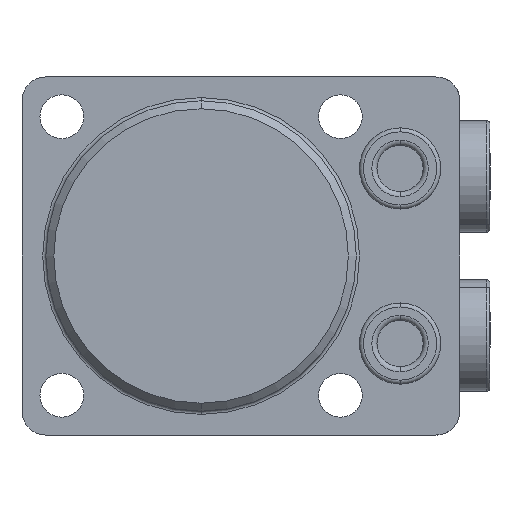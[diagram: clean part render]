
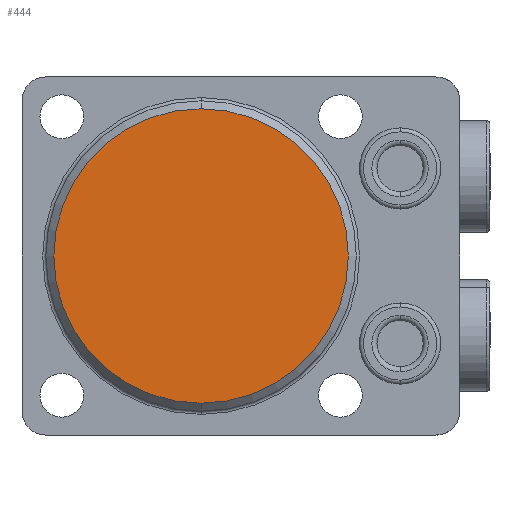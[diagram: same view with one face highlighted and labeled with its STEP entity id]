
A CAD part, front view. The second image highlights one B-rep face of the part: STEP entity #444.
In plain terms, the highlighted planar face has unit normal (0, -1, 0) as drawn and (0, 1, 0) by its records, which use the part's own axes.
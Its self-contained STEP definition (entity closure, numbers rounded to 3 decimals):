
#203=PLANE('',#3153);
#444=ADVANCED_FACE('',(#655),#203,.T.);
#655=FACE_OUTER_BOUND('',#837,.F.);
#837=EDGE_LOOP('',(#1627,#1628));
#1627=ORIENTED_EDGE('',*,*,#2594,.T.);
#1628=ORIENTED_EDGE('',*,*,#2533,.T.);
#2235=VERTEX_POINT('',#4655);
#2236=VERTEX_POINT('',#4656);
#2533=EDGE_CURVE('',#2235,#2236,#2867,.T.);
#2594=EDGE_CURVE('',#2236,#2235,#2889,.T.);
#2867=CIRCLE('',#3117,18.5);
#2889=CIRCLE('',#3152,18.5);
#3117=AXIS2_PLACEMENT_3D('',#4654,#3714,#3715);
#3152=AXIS2_PLACEMENT_3D('',#4784,#3818,#3819);
#3153=AXIS2_PLACEMENT_3D('',#4785,#3820,#3821);
#3714=DIRECTION('',(0.,-1.,0.));
#3715=DIRECTION('',(0.,0.,1.));
#3818=DIRECTION('',(0.,-1.,0.));
#3819=DIRECTION('',(0.,0.,1.));
#3820=DIRECTION('',(0.,1.,0.));
#3821=DIRECTION('',(0.,0.,1.));
#4654=CARTESIAN_POINT('',(0.,0.,0.));
#4655=CARTESIAN_POINT('',(0.,0.,-18.5));
#4656=CARTESIAN_POINT('',(0.,0.,18.5));
#4784=CARTESIAN_POINT('',(0.,0.,0.));
#4785=CARTESIAN_POINT('',(-22.5,0.,22.5));
